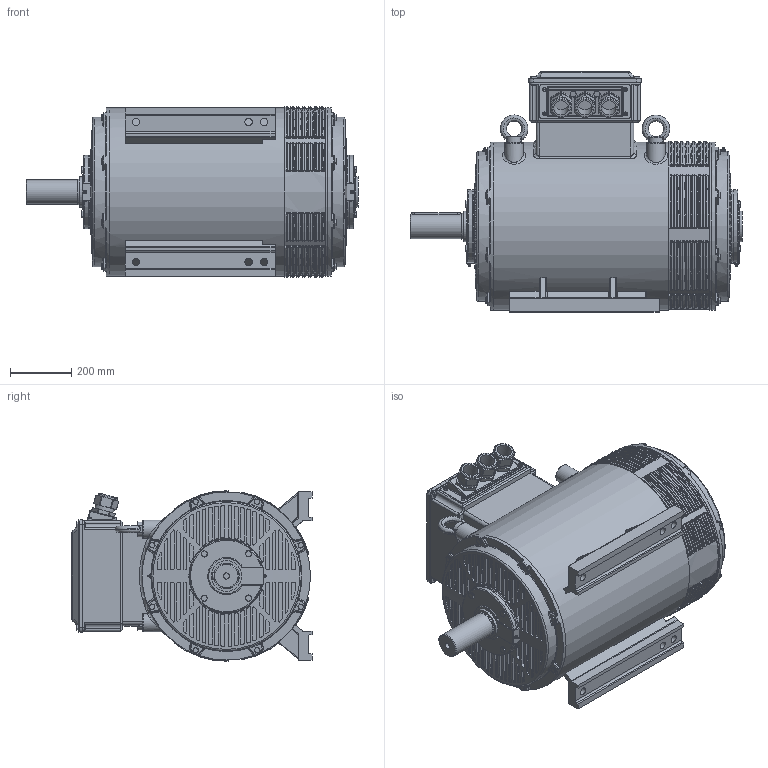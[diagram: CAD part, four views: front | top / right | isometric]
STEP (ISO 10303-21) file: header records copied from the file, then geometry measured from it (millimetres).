
FILE_DESCRIPTION((''),'2;1');
FILE_NAME('U:\Inventor 2012\121 - OMEC MOTORS\1509 - OMD IP23\1509 - Gereed\01-IP23-Cast Iron-IE1_IE2-280 B3-4_6.stp','2015-11-30T15:34:26',('Freek'),(''),'Autodesk Inventor 2012','Autodesk Inventor 2012','');
FILE_SCHEMA(('AUTOMOTIVE_DESIGN { 1 0 10303 214 1 1 1 1 }'));
Length unit declared in the file: millimetre
Products named in the file (1): 1509-028
Bounding box: 1085.9 x 785 x 557.33 mm (x, y, z)
Volume: 228686031.3 mm3; surface area: 4562128.8 mm2
Topology: 2 solids, 28 shells, 3816 faces, 9574 edges, 6050 vertices
Faces by surface type: plane 1382, cylinder 1330, cone 414, bspline 315, torus 219, sphere 156
Full cylindrical faces by diameter (mm): 8 x4, 9 x4, 9.188 x20, 10 x28, 13 x4, 15 x2, 15.4 x20, 17.2 x8, 20 x3, 24 x6, 48 x3, 60 x4, 63 x3, 66 x3, 80 x2, 84.6 x1, 84.8 x1, 85 x1, 99.8 x2, 100 x2, 490 x2, 544 x1, 550 x4
Entity records: 130769 total; most frequent: CARTESIAN_POINT 39920, ORIENTED_EDGE 18564, DIRECTION 17620, EDGE_CURVE 9282, AXIS2_PLACEMENT_3D 6986, VERTEX_POINT 5985, EDGE_LOOP 4359, STYLED_ITEM 3818
